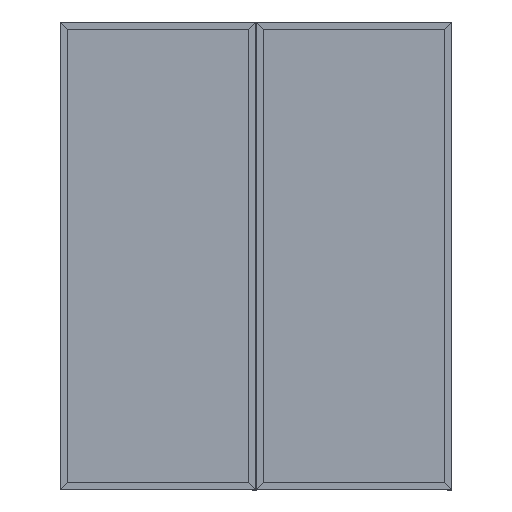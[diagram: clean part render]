
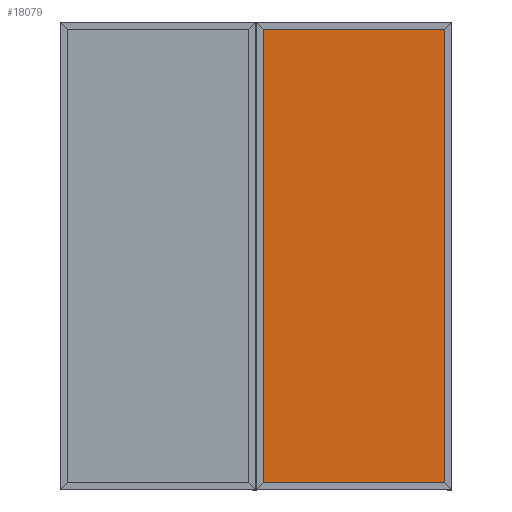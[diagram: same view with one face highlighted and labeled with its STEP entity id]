
A CAD part, top view. The second image highlights one B-rep face of the part: STEP entity #18079.
In plain terms, the highlighted planar face has unit normal (0, 0, 1).
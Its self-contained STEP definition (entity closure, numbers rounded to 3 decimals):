
#182 = LINE ( 'NONE', #27857, #28208 ) ;
#324 = ORIENTED_EDGE ( 'NONE', *, *, #20064, .F. ) ;
#364 = EDGE_CURVE ( 'NONE', #16267, #13874, #817, .T. ) ;
#817 = LINE ( 'NONE', #20043, #18378 ) ;
#1619 = LINE ( 'NONE', #15505, #6276 ) ;
#1997 = AXIS2_PLACEMENT_3D ( 'NONE', #22946, #25253, #2054 ) ;
#2054 = DIRECTION ( 'NONE',  ( -1., 0., 0. ) ) ;
#3073 = DIRECTION ( 'NONE',  ( -1., 0., 0. ) ) ;
#3880 = VECTOR ( 'NONE', #3073, 1000. ) ;
#4063 = DIRECTION ( 'NONE',  ( -1., 0., 0. ) ) ;
#4532 = EDGE_CURVE ( 'NONE', #16803, #13874, #1619, .T. ) ;
#4849 = CARTESIAN_POINT ( 'NONE',  ( -465.07, 1162.2, -13.25 ) ) ;
#6276 = VECTOR ( 'NONE', #4063, 1000. ) ;
#7832 = CARTESIAN_POINT ( 'NONE',  ( -465.07, -1162.2, -13.25 ) ) ;
#9431 = ORIENTED_EDGE ( 'NONE', *, *, #16090, .T. ) ;
#13874 = VERTEX_POINT ( 'NONE', #4849 ) ;
#14958 = CARTESIAN_POINT ( 'NONE',  ( 0., -1162.2, -13.25 ) ) ;
#15054 = ORIENTED_EDGE ( 'NONE', *, *, #364, .F. ) ;
#15171 = DIRECTION ( 'NONE',  ( 0., 1., 0. ) ) ;
#15505 = CARTESIAN_POINT ( 'NONE',  ( 0., 1162.2, -13.25 ) ) ;
#16090 = EDGE_CURVE ( 'NONE', #21490, #16803, #182, .T. ) ;
#16267 = VERTEX_POINT ( 'NONE', #7832 ) ;
#16803 = VERTEX_POINT ( 'NONE', #24430 ) ;
#17170 = FACE_OUTER_BOUND ( 'NONE', #24696, .T. ) ;
#18079 = ADVANCED_FACE ( 'NONE', ( #17170 ), #24191, .F. ) ;
#18378 = VECTOR ( 'NONE', #15171, 1000. ) ;
#20043 = CARTESIAN_POINT ( 'NONE',  ( -465.07, 0., -13.25 ) ) ;
#20064 = EDGE_CURVE ( 'NONE', #21490, #16267, #26735, .T. ) ;
#20950 = DIRECTION ( 'NONE',  ( 0., 1., 0. ) ) ;
#21267 = CARTESIAN_POINT ( 'NONE',  ( 465.07, -1162.2, -13.25 ) ) ;
#21490 = VERTEX_POINT ( 'NONE', #21267 ) ;
#22946 = CARTESIAN_POINT ( 'NONE',  ( 0., 0., -13.25 ) ) ;
#24191 = PLANE ( 'NONE',  #1997 ) ;
#24430 = CARTESIAN_POINT ( 'NONE',  ( 465.07, 1162.2, -13.25 ) ) ;
#24696 = EDGE_LOOP ( 'NONE', ( #15054, #324, #9431, #25152 ) ) ;
#25152 = ORIENTED_EDGE ( 'NONE', *, *, #4532, .T. ) ;
#25253 = DIRECTION ( 'NONE',  ( 0., 0., -1. ) ) ;
#26735 = LINE ( 'NONE', #14958, #3880 ) ;
#27857 = CARTESIAN_POINT ( 'NONE',  ( 465.07, 0., -13.25 ) ) ;
#28208 = VECTOR ( 'NONE', #20950, 1000. ) ;
